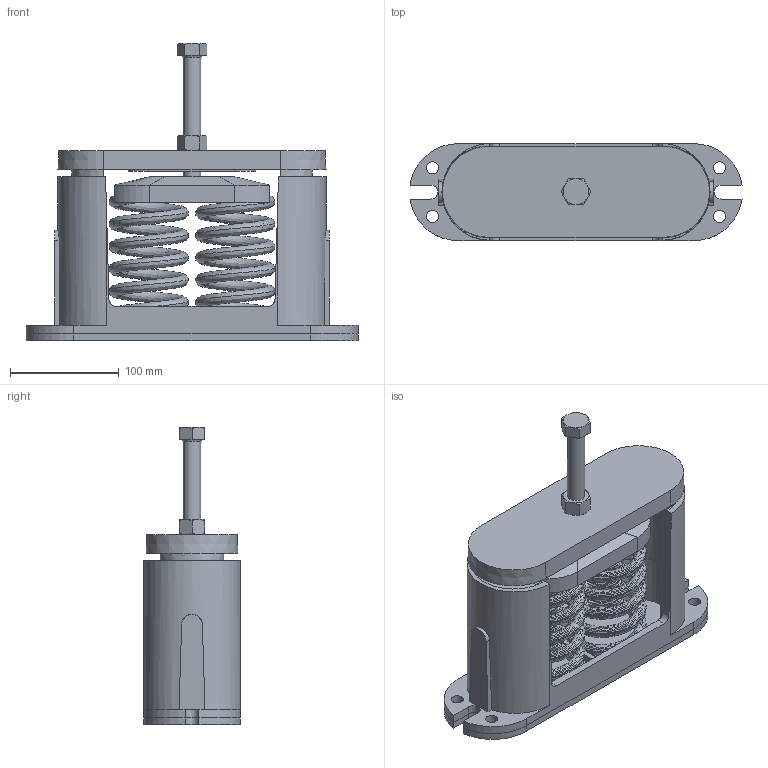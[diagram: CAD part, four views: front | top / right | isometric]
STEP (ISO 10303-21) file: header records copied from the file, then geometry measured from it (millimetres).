
FILE_DESCRIPTION(/* description */ (''),/* implementation_level */ '2;1');
FILE_NAME(/* name */ 'C:\001_Work\Designs\C MOUNTS\C-D, D2\C-D-C2-3740.stp',/* time_stamp */ '2015-12-07T16:30:57-05:00',/* author */ ('rramoutar'),/* organization */ ('Mason Industries Inc.'),/* preprocessor_version */ 'ST-DEVELOPER v15.6',/* originating_system */ 'Autodesk Inventor 2015',/* authorisation */ '');
FILE_SCHEMA (('CONFIG_CONTROL_DESIGN'));
Length unit declared in the file: inch
Products named in the file (1): C-D-C2-3740
Bounding box: 304.8 x 88.9 x 273.22 mm (x, y, z)
Volume: 1308463.4 mm3; surface area: 396769.4 mm2
Topology: 1 solids, 4 shells, 282 faces, 773 edges, 499 vertices
Faces by surface type: plane 140, cylinder 62, bspline 52, cone 23, torus 5
Full cylindrical faces by diameter (mm): 11.112 x8, 15.875 x3, 17.462 x1, 25.4 x2
Entity records: 28648 total; most frequent: CARTESIAN_POINT 21647, ORIENTED_EDGE 1498, DIRECTION 1200, EDGE_CURVE 749, VERTEX_POINT 493, AXIS2_PLACEMENT_3D 413, LINE 374, VECTOR 374
